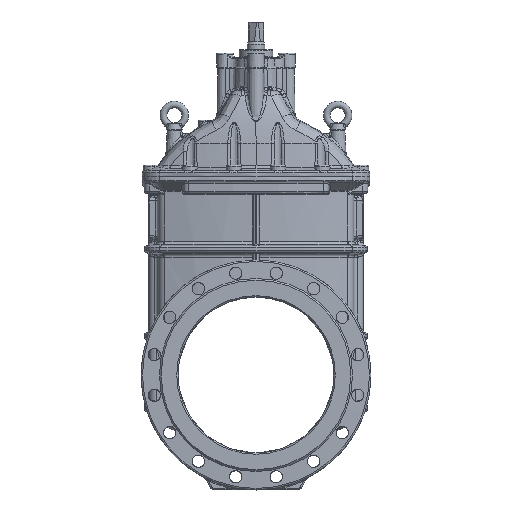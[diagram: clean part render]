
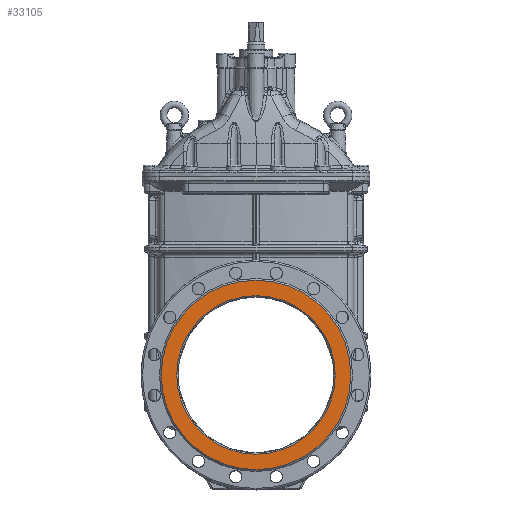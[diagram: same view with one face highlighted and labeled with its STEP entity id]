
A CAD part, top view. The second image highlights one B-rep face of the part: STEP entity #33105.
In plain terms, the highlighted planar face has unit normal (0, 0, 1).
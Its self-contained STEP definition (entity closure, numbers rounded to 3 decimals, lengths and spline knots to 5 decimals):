
#4298=FACE_BOUND('',#8444,.T.);
#6161=FACE_OUTER_BOUND('',#8443,.T.);
#8443=EDGE_LOOP('',(#29490));
#8444=EDGE_LOOP('',(#29491));
#10502=CIRCLE('',#36619,0.2145);
#10532=CIRCLE('',#36686,0.17947);
#15216=VERTEX_POINT('',#124162);
#15273=VERTEX_POINT('',#126268);
#19962=EDGE_CURVE('',#15216,#15216,#10502,.F.);
#20075=EDGE_CURVE('',#15273,#15273,#10532,.F.);
#29490=ORIENTED_EDGE('',*,*,#19962,.F.);
#29491=ORIENTED_EDGE('',*,*,#20075,.T.);
#31214=PLANE('',#36685);
#33105=ADVANCED_FACE('',(#6161,#4298),#31214,.F.);
#36619=AXIS2_PLACEMENT_3D('',#124164,#43840,#43841);
#36685=AXIS2_PLACEMENT_3D('',#126267,#44003,#44004);
#36686=AXIS2_PLACEMENT_3D('',#126269,#44005,#44006);
#43840=DIRECTION('center_axis',(0.,0.,
1.));
#43841=DIRECTION('ref_axis',(0.,-1.,0.));
#44003=DIRECTION('center_axis',(0.,0.,-1.));
#44004=DIRECTION('ref_axis',(-1.,0.,0.));
#44005=DIRECTION('center_axis',(0.,0.,1.));
#44006=DIRECTION('ref_axis',(1.,0.,0.));
#124162=CARTESIAN_POINT('',(0.2145,0.,0.145));
#124164=CARTESIAN_POINT('Origin',(0.,0.,0.145));
#126267=CARTESIAN_POINT('Origin',(0.,0.,0.145));
#126268=CARTESIAN_POINT('',(-0.17947,0.,0.145));
#126269=CARTESIAN_POINT('Origin',(0.,0.,
0.145));
